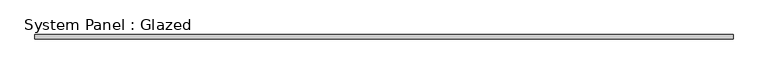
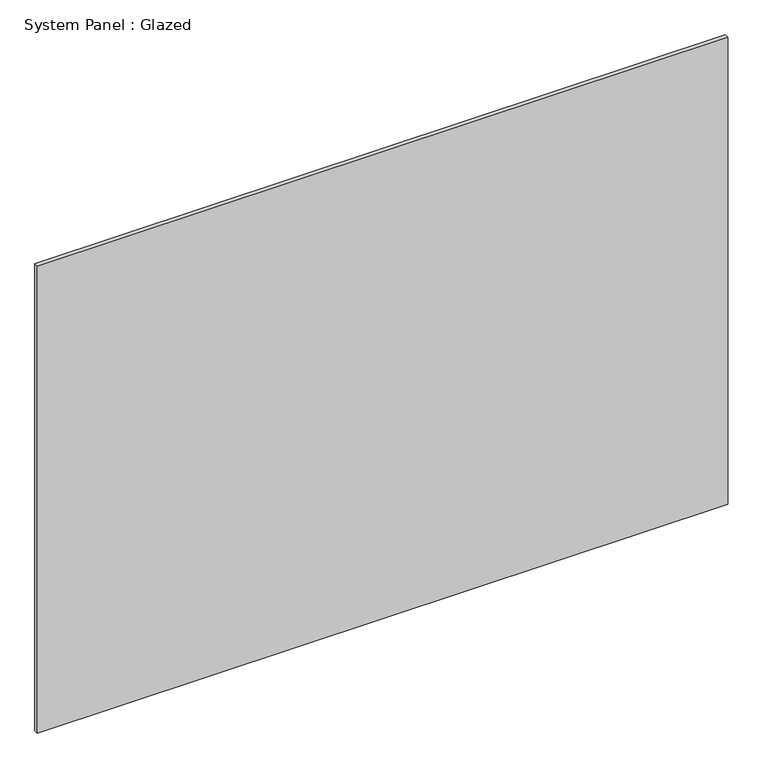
"""IFC4 building model written with IfcOpenShell, lengths in millimetres: plate geometry, System Panel : Glazed."""

from ifc_helpers import new_model, si_unit, origin, origin_with_axes, place, context, project, spatial, polyline, outline, extrude, source, transform, mapped, element, save


def system_panel_glazed_2828cf0c(model_context):
    return source(origin(), model_context, "Body", "SweptSolid", [
        extrude(outline(polyline([(1925.0, 24.5), (-1925.0, 24.5), (-1925.0, 49.5), (1925.0, 49.5), (1925.0, 24.5)])), origin_with_axes(), (0.0, 0.0, 1.0), 2750.0),
    ])


if __name__ == "__main__":
    model = new_model("IFC4")
    model_context = context("Model", 3, world=origin())
    ifc_project = project(units=[si_unit("LENGTHUNIT", "METRE", prefix="MILLI")], contexts=[model_context])
    site = spatial("IfcSite", under=ifc_project)
    building = spatial("IfcBuilding", under=site)
    placement = place(None, origin())
    system_panel_glazed_shape = system_panel_glazed_2828cf0c(model_context)
    element("IfcPlate", 1, ObjectType="System Panel : Glazed", at=placement, inside=building, context=model_context, shape_type="MappedRepresentation", body=[
        mapped(system_panel_glazed_shape, transform((0.0, 0.0, 0.0), x_axis=(1.0, 0.0, 0.0), y_axis=(0.0, 1.0, 0.0), z_axis=(0.0, 0.0, 1.0))),
    ])
    save(model, "model.ifc")
